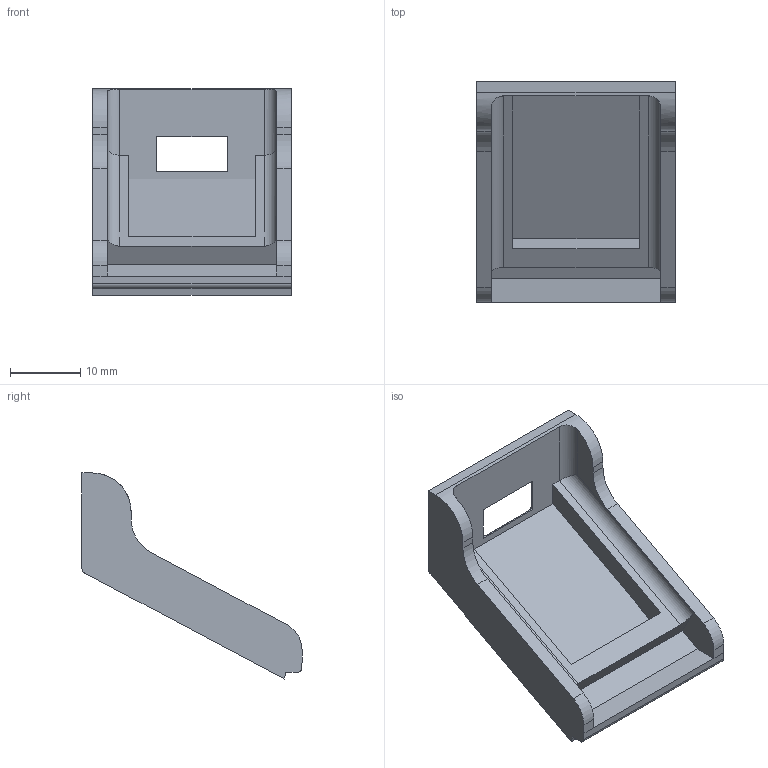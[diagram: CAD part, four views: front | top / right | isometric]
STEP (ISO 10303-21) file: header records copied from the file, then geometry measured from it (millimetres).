
FILE_DESCRIPTION(/* description */ (''),/* implementation_level */ '2;1');
FILE_NAME(/* name */ 'Back.step',/* time_stamp */ '2025-11-28T14:50:10+01:00',/* author */ (''),/* organization */ (''),/* preprocessor_version */ 'ST-DEVELOPER v20.1',/* originating_system */ 'Autodesk Translation Framework v14.21.0.0',/* authorisation */ '');
FILE_SCHEMA (('AUTOMOTIVE_DESIGN { 1 0 10303 214 3 1 1 }'));
Length unit declared in the file: millimetre
Products named in the file (1): Back
Bounding box: 28.2 x 31.35 x 29.34 mm (x, y, z)
Volume: 4009 mm3; surface area: 3737.8 mm2
Topology: 1 solids, 1 shells, 53 faces, 148 edges, 96 vertices
Faces by surface type: plane 33, cylinder 16, bspline 4
Entity records: 1821 total; most frequent: CARTESIAN_POINT 418, ORIENTED_EDGE 296, DIRECTION 276, EDGE_CURVE 148, LINE 100, VECTOR 100, VERTEX_POINT 96, AXIS2_PLACEMENT_3D 88
